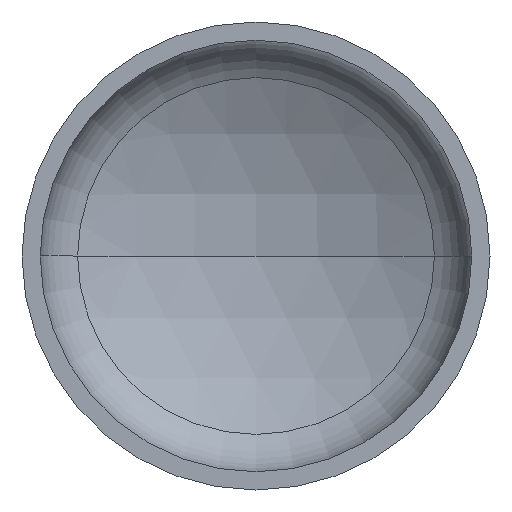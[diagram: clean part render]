
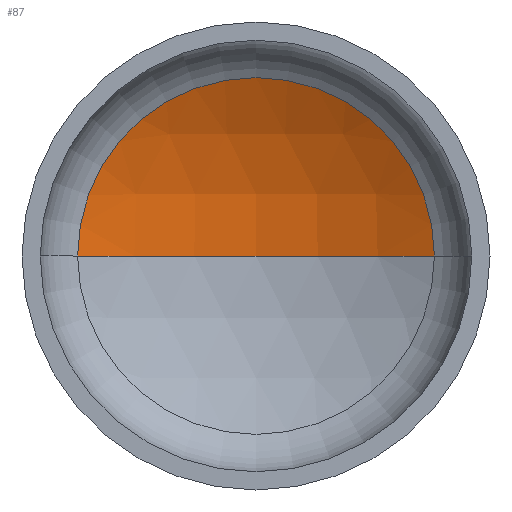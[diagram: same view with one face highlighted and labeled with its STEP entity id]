
A CAD part, front view. The second image highlights one B-rep face of the part: STEP entity #87.
In plain terms, the highlighted spherical face has radius 1520 mm.
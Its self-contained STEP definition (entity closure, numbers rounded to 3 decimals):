
#5 = EDGE_LOOP ( 'NONE', ( #26, #61, #19 ) ) ;
#8 = VERTEX_POINT ( 'NONE', #281 ) ;
#19 = ORIENTED_EDGE ( 'NONE', *, *, #172, .T. ) ;
#20 = CIRCLE ( 'NONE', #110, 724.163 ) ;
#26 = ORIENTED_EDGE ( 'NONE', *, *, #176, .F. ) ;
#40 = VERTEX_POINT ( 'NONE', #247 ) ;
#61 = ORIENTED_EDGE ( 'NONE', *, *, #175, .T. ) ;
#87 = ADVANCED_FACE ( 'NONE', ( #109 ), #181, .F. ) ;
#97 = AXIS2_PLACEMENT_3D ( 'NONE', #213, #250, #249 ) ;
#101 = AXIS2_PLACEMENT_3D ( 'NONE', #185, #195, #197 ) ;
#103 = VERTEX_POINT ( 'NONE', #330 ) ;
#109 = FACE_OUTER_BOUND ( 'NONE', #5, .T. ) ;
#110 = AXIS2_PLACEMENT_3D ( 'NONE', #221, #168, #315 ) ;
#112 = CIRCLE ( 'NONE', #101, 1520. ) ;
#144 = AXIS2_PLACEMENT_3D ( 'NONE', #238, #233, #231 ) ;
#168 = DIRECTION ( 'NONE',  ( 0., -1., 0. ) ) ;
#172 = EDGE_CURVE ( 'NONE', #8, #40, #20, .T. ) ;
#175 = EDGE_CURVE ( 'NONE', #103, #8, #112, .T. ) ;
#176 = EDGE_CURVE ( 'NONE', #103, #40, #184, .T. ) ;
#181 = SPHERICAL_SURFACE ( 'NONE', #144, 1520. ) ;
#184 = CIRCLE ( 'NONE', #97, 1520. ) ;
#185 = CARTESIAN_POINT ( 'NONE',  ( 0., -961.436, 0. ) ) ;
#195 = DIRECTION ( 'NONE',  ( 0., 0., -1. ) ) ;
#197 = DIRECTION ( 'NONE',  ( -1., 0., 0. ) ) ;
#213 = CARTESIAN_POINT ( 'NONE',  ( 0., -961.436, 0. ) ) ;
#221 = CARTESIAN_POINT ( 'NONE',  ( 0., 374.973, 0. ) ) ;
#231 = DIRECTION ( 'NONE',  ( -1., 0., 0. ) ) ;
#233 = DIRECTION ( 'NONE',  ( 0., 0., -1. ) ) ;
#238 = CARTESIAN_POINT ( 'NONE',  ( 0., -961.436, 0. ) ) ;
#247 = CARTESIAN_POINT ( 'NONE',  ( -724.163, 374.973, 0. ) ) ;
#249 = DIRECTION ( 'NONE',  ( 1., 0., 0. ) ) ;
#250 = DIRECTION ( 'NONE',  ( 0., 0., 1. ) ) ;
#281 = CARTESIAN_POINT ( 'NONE',  ( 724.163, 374.973, 0. ) ) ;
#315 = DIRECTION ( 'NONE',  ( 1., 0., 0. ) ) ;
#330 = CARTESIAN_POINT ( 'NONE',  ( 0., 558.564, 0. ) ) ;
